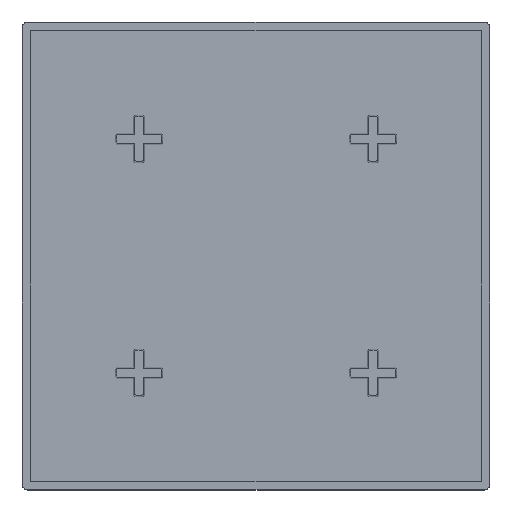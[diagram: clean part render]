
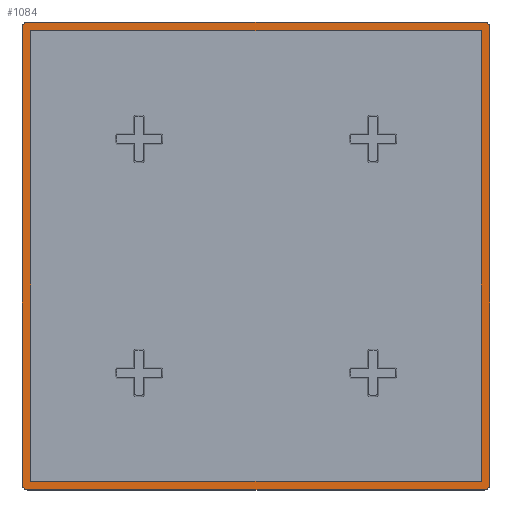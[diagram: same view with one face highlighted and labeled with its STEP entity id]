
A CAD part, top view. The second image highlights one B-rep face of the part: STEP entity #1084.
In plain terms, the highlighted planar face has unit normal (0, 0, 1).
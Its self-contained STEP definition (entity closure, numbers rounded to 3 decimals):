
#35 = DIRECTION ( 'NONE',  ( 0., 0., 1. ) ) ;
#97 = ORIENTED_EDGE ( 'NONE', *, *, #328, .T. ) ;
#118 = EDGE_CURVE ( 'NONE', #324, #541, #1806, .T. ) ;
#129 = LINE ( 'NONE', #877, #304 ) ;
#189 = AXIS2_PLACEMENT_3D ( 'NONE', #1592, #1576, #453 ) ;
#190 = ORIENTED_EDGE ( 'NONE', *, *, #1562, .T. ) ;
#205 = DIRECTION ( 'NONE',  ( 0., 0., 1. ) ) ;
#208 = DIRECTION ( 'NONE',  ( 0., 0., 1. ) ) ;
#259 = CIRCLE ( 'NONE', #2039, 1. ) ;
#277 = DIRECTION ( 'NONE',  ( 1., 0., 0. ) ) ;
#299 = ORIENTED_EDGE ( 'NONE', *, *, #118, .F. ) ;
#304 = VECTOR ( 'NONE', #277, 1000. ) ;
#324 = VERTEX_POINT ( 'NONE', #745 ) ;
#328 = EDGE_CURVE ( 'NONE', #1846, #2315, #1385, .T. ) ;
#333 = CARTESIAN_POINT ( 'NONE',  ( 40., 39., 5. ) ) ;
#353 = AXIS2_PLACEMENT_3D ( 'NONE', #796, #208, #1718 ) ;
#374 = DIRECTION ( 'NONE',  ( 0., 0., 1. ) ) ;
#392 = PLANE ( 'NONE',  #1125 ) ;
#453 = DIRECTION ( 'NONE',  ( 1., 0., 0. ) ) ;
#489 = DIRECTION ( 'NONE',  ( 0., -1., 0. ) ) ;
#533 = EDGE_CURVE ( 'NONE', #2038, #1846, #712, .T. ) ;
#541 = VERTEX_POINT ( 'NONE', #1273 ) ;
#561 = ORIENTED_EDGE ( 'NONE', *, *, #1509, .F. ) ;
#571 = FACE_BOUND ( 'NONE', #2250, .T. ) ;
#596 = CARTESIAN_POINT ( 'NONE',  ( 40., 40., 5. ) ) ;
#610 = EDGE_CURVE ( 'NONE', #948, #2359, #2285, .T. ) ;
#612 = ORIENTED_EDGE ( 'NONE', *, *, #645, .T. ) ;
#645 = EDGE_CURVE ( 'NONE', #1504, #997, #1050, .T. ) ;
#649 = DIRECTION ( 'NONE',  ( 1., 0., 0. ) ) ;
#704 = VERTEX_POINT ( 'NONE', #1166 ) ;
#710 = VECTOR ( 'NONE', #489, 1000. ) ;
#712 = LINE ( 'NONE', #879, #710 ) ;
#719 = CARTESIAN_POINT ( 'NONE',  ( 40., -40., 5. ) ) ;
#727 = CARTESIAN_POINT ( 'NONE',  ( -39., -40., 5. ) ) ;
#745 = CARTESIAN_POINT ( 'NONE',  ( 38.5, 38.5, 5. ) ) ;
#753 = DIRECTION ( 'NONE',  ( 1., 0., 0. ) ) ;
#762 = FACE_OUTER_BOUND ( 'NONE', #2233, .T. ) ;
#789 = VERTEX_POINT ( 'NONE', #2153 ) ;
#796 = CARTESIAN_POINT ( 'NONE',  ( 39., 39., 5. ) ) ;
#873 = VECTOR ( 'NONE', #2403, 1000. ) ;
#877 = CARTESIAN_POINT ( 'NONE',  ( -38.5, -38.5, 5. ) ) ;
#879 = CARTESIAN_POINT ( 'NONE',  ( -40., 40., 5. ) ) ;
#934 = VECTOR ( 'NONE', #1289, 1000. ) ;
#936 = CARTESIAN_POINT ( 'NONE',  ( 40., -39., 5. ) ) ;
#948 = VERTEX_POINT ( 'NONE', #333 ) ;
#997 = VERTEX_POINT ( 'NONE', #936 ) ;
#1050 = CIRCLE ( 'NONE', #2037, 1. ) ;
#1084 = ADVANCED_FACE ( 'NONE', ( #571, #762 ), #392, .T. ) ;
#1099 = EDGE_CURVE ( 'NONE', #789, #324, #2280, .T. ) ;
#1125 = AXIS2_PLACEMENT_3D ( 'NONE', #1715, #205, #1730 ) ;
#1131 = ORIENTED_EDGE ( 'NONE', *, *, #1355, .T. ) ;
#1166 = CARTESIAN_POINT ( 'NONE',  ( -38.5, -38.5, 5. ) ) ;
#1168 = CARTESIAN_POINT ( 'NONE',  ( -40., 39., 5. ) ) ;
#1225 = CARTESIAN_POINT ( 'NONE',  ( 39., -40., 5. ) ) ;
#1273 = CARTESIAN_POINT ( 'NONE',  ( -38.5, 38.5, 5. ) ) ;
#1289 = DIRECTION ( 'NONE',  ( 0., 1., 0. ) ) ;
#1290 = VECTOR ( 'NONE', #1755, 1000. ) ;
#1331 = CARTESIAN_POINT ( 'NONE',  ( -39., 39., 5. ) ) ;
#1355 = EDGE_CURVE ( 'NONE', #1380, #2038, #259, .T. ) ;
#1380 = VERTEX_POINT ( 'NONE', #1678 ) ;
#1385 = CIRCLE ( 'NONE', #189, 1. ) ;
#1504 = VERTEX_POINT ( 'NONE', #1225 ) ;
#1509 = EDGE_CURVE ( 'NONE', #541, #704, #1593, .T. ) ;
#1518 = CARTESIAN_POINT ( 'NONE',  ( 39., -39., 5. ) ) ;
#1562 = EDGE_CURVE ( 'NONE', #2359, #1380, #2292, .T. ) ;
#1576 = DIRECTION ( 'NONE',  ( 0., 0., 1. ) ) ;
#1592 = CARTESIAN_POINT ( 'NONE',  ( -39., -39., 5. ) ) ;
#1593 = LINE ( 'NONE', #1752, #1922 ) ;
#1627 = CARTESIAN_POINT ( 'NONE',  ( -40., -40., 5. ) ) ;
#1678 = CARTESIAN_POINT ( 'NONE',  ( -39., 40., 5. ) ) ;
#1697 = ORIENTED_EDGE ( 'NONE', *, *, #1761, .F. ) ;
#1715 = CARTESIAN_POINT ( 'NONE',  ( 0., 0., 5. ) ) ;
#1718 = DIRECTION ( 'NONE',  ( 1., 0., 0. ) ) ;
#1730 = DIRECTION ( 'NONE',  ( 1., 0., 0. ) ) ;
#1747 = EDGE_CURVE ( 'NONE', #2315, #1504, #1999, .T. ) ;
#1752 = CARTESIAN_POINT ( 'NONE',  ( -38.5, 38.5, 5. ) ) ;
#1755 = DIRECTION ( 'NONE',  ( 0., 1., 0. ) ) ;
#1756 = ORIENTED_EDGE ( 'NONE', *, *, #1099, .F. ) ;
#1759 = ORIENTED_EDGE ( 'NONE', *, *, #2253, .T. ) ;
#1761 = EDGE_CURVE ( 'NONE', #704, #789, #129, .T. ) ;
#1767 = DIRECTION ( 'NONE',  ( 0., -1., 0. ) ) ;
#1773 = ORIENTED_EDGE ( 'NONE', *, *, #610, .T. ) ;
#1806 = LINE ( 'NONE', #1831, #873 ) ;
#1823 = ORIENTED_EDGE ( 'NONE', *, *, #533, .T. ) ;
#1831 = CARTESIAN_POINT ( 'NONE',  ( 38.5, 38.5, 5. ) ) ;
#1846 = VERTEX_POINT ( 'NONE', #2247 ) ;
#1894 = CARTESIAN_POINT ( 'NONE',  ( 39., 40., 5. ) ) ;
#1922 = VECTOR ( 'NONE', #1767, 1000. ) ;
#1925 = DIRECTION ( 'NONE',  ( -1., 0., 0. ) ) ;
#1999 = LINE ( 'NONE', #1627, #2422 ) ;
#2030 = LINE ( 'NONE', #719, #934 ) ;
#2037 = AXIS2_PLACEMENT_3D ( 'NONE', #1518, #35, #753 ) ;
#2038 = VERTEX_POINT ( 'NONE', #1168 ) ;
#2039 = AXIS2_PLACEMENT_3D ( 'NONE', #1331, #374, #2097 ) ;
#2097 = DIRECTION ( 'NONE',  ( 1., 0., 0. ) ) ;
#2100 = CARTESIAN_POINT ( 'NONE',  ( 38.5, -38.5, 5. ) ) ;
#2121 = VECTOR ( 'NONE', #1925, 1000. ) ;
#2153 = CARTESIAN_POINT ( 'NONE',  ( 38.5, -38.5, 5. ) ) ;
#2233 = EDGE_LOOP ( 'NONE', ( #2309, #612, #1759, #1773, #190, #1131, #1823, #97 ) ) ;
#2247 = CARTESIAN_POINT ( 'NONE',  ( -40., -39., 5. ) ) ;
#2250 = EDGE_LOOP ( 'NONE', ( #299, #1756, #1697, #561 ) ) ;
#2253 = EDGE_CURVE ( 'NONE', #997, #948, #2030, .T. ) ;
#2280 = LINE ( 'NONE', #2100, #1290 ) ;
#2285 = CIRCLE ( 'NONE', #353, 1. ) ;
#2292 = LINE ( 'NONE', #596, #2121 ) ;
#2309 = ORIENTED_EDGE ( 'NONE', *, *, #1747, .T. ) ;
#2315 = VERTEX_POINT ( 'NONE', #727 ) ;
#2359 = VERTEX_POINT ( 'NONE', #1894 ) ;
#2403 = DIRECTION ( 'NONE',  ( -1., 0., 0. ) ) ;
#2422 = VECTOR ( 'NONE', #649, 1000. ) ;
